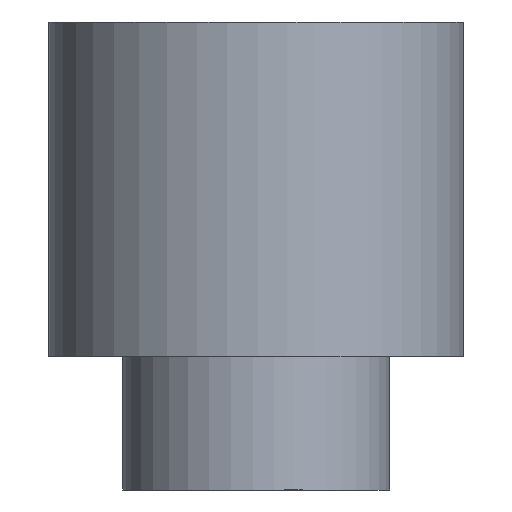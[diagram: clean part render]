
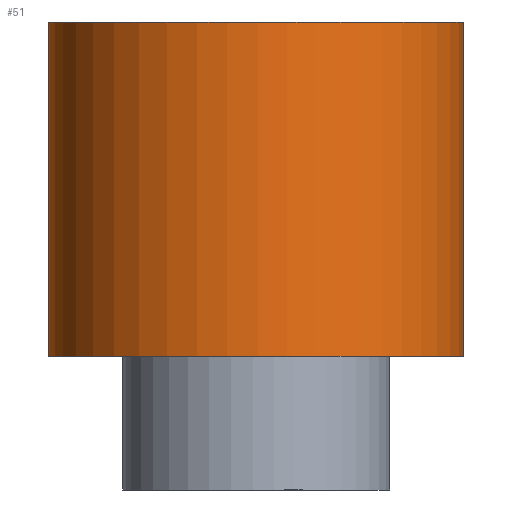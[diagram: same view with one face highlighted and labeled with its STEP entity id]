
A CAD part, front view. The second image highlights one B-rep face of the part: STEP entity #51.
In plain terms, the highlighted free-form (B-spline) face has degree [2, 1] with [7, 2] control points.
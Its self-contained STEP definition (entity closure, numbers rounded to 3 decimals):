
#35 = EDGE_CURVE('',#36,#36,#38,.T.);
#36 = VERTEX_POINT('',#37);
#37 = CARTESIAN_POINT('',(-2.175,0.,3.5));
#38 = ( BOUNDED_CURVE() B_SPLINE_CURVE(2,(#39,#40,#41,#42,#43,#44,#45),
.UNSPECIFIED.,.T.,.F.) B_SPLINE_CURVE_WITH_KNOTS((1,2,2,2,2,1),(
    -2.094,0.,2.094,4.189,6.283,
8.378),.UNSPECIFIED.) CURVE() GEOMETRIC_REPRESENTATION_ITEM() 
RATIONAL_B_SPLINE_CURVE((1.,0.5,1.,0.5,1.,0.5,1.)) REPRESENTATION_ITEM(
  '') );
#39 = CARTESIAN_POINT('',(-2.175,0.,3.5));
#40 = CARTESIAN_POINT('',(-2.175,3.767,3.5));
#41 = CARTESIAN_POINT('',(1.088,1.884,3.5));
#42 = CARTESIAN_POINT('',(4.35,0.,3.5));
#43 = CARTESIAN_POINT('',(1.088,-1.884,3.5));
#44 = CARTESIAN_POINT('',(-2.175,-3.767,3.5));
#45 = CARTESIAN_POINT('',(-2.175,0.,3.5));
#51 = ADVANCED_FACE('',(#52),#73,.T.);
#52 = FACE_BOUND('',#53,.T.);
#53 = EDGE_LOOP('',(#54,#66,#71,#72));
#54 = ORIENTED_EDGE('',*,*,#55,.F.);
#55 = EDGE_CURVE('',#56,#56,#58,.T.);
#56 = VERTEX_POINT('',#57);
#57 = CARTESIAN_POINT('',(-2.175,0.,0.));
#58 = ( BOUNDED_CURVE() B_SPLINE_CURVE(2,(#59,#60,#61,#62,#63,#64,#65),
.UNSPECIFIED.,.T.,.F.) B_SPLINE_CURVE_WITH_KNOTS((1,2,2,2,2,1),(
    -2.094,0.,2.094,4.189,6.283,
8.378),.UNSPECIFIED.) CURVE() GEOMETRIC_REPRESENTATION_ITEM() 
RATIONAL_B_SPLINE_CURVE((1.,0.5,1.,0.5,1.,0.5,1.)) REPRESENTATION_ITEM(
  '') );
#59 = CARTESIAN_POINT('',(-2.175,0.,0.));
#60 = CARTESIAN_POINT('',(-2.175,3.767,0.));
#61 = CARTESIAN_POINT('',(1.088,1.884,0.));
#62 = CARTESIAN_POINT('',(4.35,0.,0.));
#63 = CARTESIAN_POINT('',(1.088,-1.884,0.));
#64 = CARTESIAN_POINT('',(-2.175,-3.767,0.));
#65 = CARTESIAN_POINT('',(-2.175,0.,0.));
#66 = ORIENTED_EDGE('',*,*,#67,.T.);
#67 = EDGE_CURVE('',#56,#36,#68,.T.);
#68 = B_SPLINE_CURVE_WITH_KNOTS('',1,(#69,#70),.UNSPECIFIED.,.F.,.F.,(2,
    2),(1.4,4.9),.PIECEWISE_BEZIER_KNOTS.);
#69 = CARTESIAN_POINT('',(-2.175,0.,0.));
#70 = CARTESIAN_POINT('',(-2.175,0.,3.5));
#71 = ORIENTED_EDGE('',*,*,#35,.T.);
#72 = ORIENTED_EDGE('',*,*,#67,.F.);
#73 = ( BOUNDED_SURFACE() B_SPLINE_SURFACE(2,1,(
    (#74,#75)
    ,(#76,#77)
    ,(#78,#79)
    ,(#80,#81)
    ,(#82,#83)
    ,(#84,#85)
,(#86,#87
    )),.UNSPECIFIED.,.T.,.F.,.F.) B_SPLINE_SURFACE_WITH_KNOTS((1,2,2,2,2
    ,1),(2,2),(-2.094,0.,2.094,4.189,
    6.283,8.378),(1.4,4.9),.UNSPECIFIED.) 
GEOMETRIC_REPRESENTATION_ITEM() RATIONAL_B_SPLINE_SURFACE((
    (1.,1.)
    ,(0.5,0.5)
    ,(1.,1.)
    ,(0.5,0.5)
    ,(1.,1.)
    ,(0.5,0.5)
,(1.,1.))) REPRESENTATION_ITEM('') SURFACE() );
#74 = CARTESIAN_POINT('',(-2.175,0.,0.));
#75 = CARTESIAN_POINT('',(-2.175,0.,3.5));
#76 = CARTESIAN_POINT('',(-2.175,-3.767,0.));
#77 = CARTESIAN_POINT('',(-2.175,-3.767,3.5));
#78 = CARTESIAN_POINT('',(1.088,-1.884,0.));
#79 = CARTESIAN_POINT('',(1.088,-1.884,3.5));
#80 = CARTESIAN_POINT('',(4.35,0.,0.));
#81 = CARTESIAN_POINT('',(4.35,0.,3.5));
#82 = CARTESIAN_POINT('',(1.088,1.884,0.));
#83 = CARTESIAN_POINT('',(1.088,1.884,3.5));
#84 = CARTESIAN_POINT('',(-2.175,3.767,0.));
#85 = CARTESIAN_POINT('',(-2.175,3.767,3.5));
#86 = CARTESIAN_POINT('',(-2.175,0.,0.));
#87 = CARTESIAN_POINT('',(-2.175,0.,3.5));
